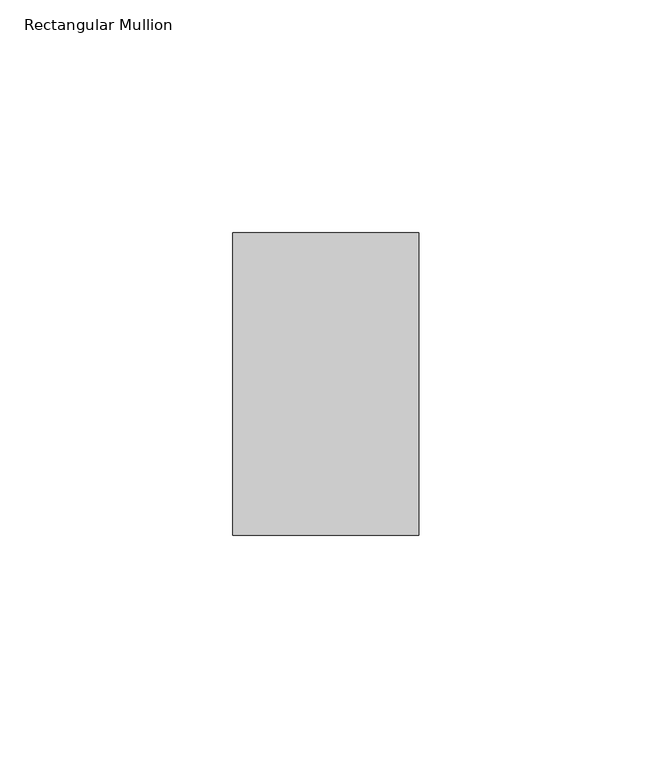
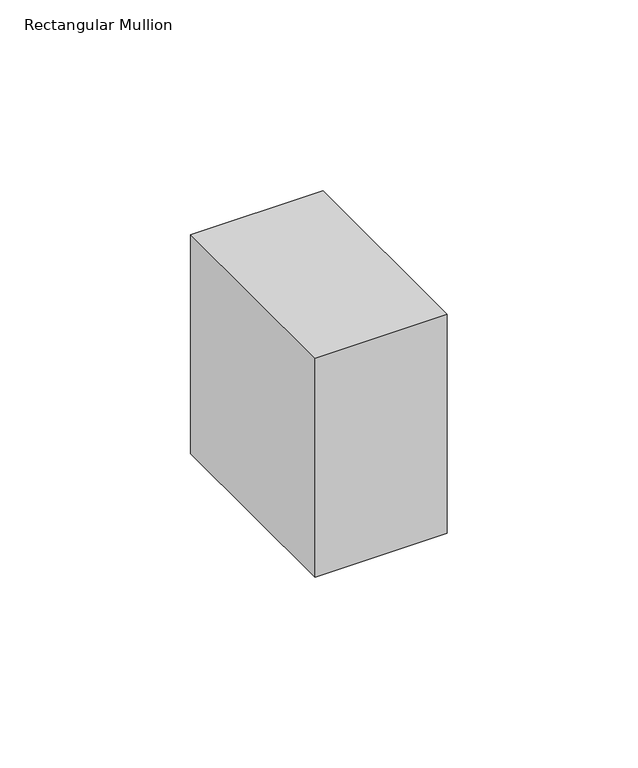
"""IFC4 building model written with IfcOpenShell, lengths in millimetres: member geometry, Rectangular Mullion : Batten_Timber_Modinex_Austratus_Grid_Fascia_40x65_Blackbutt."""

from ifc_helpers import new_model, si_unit, frame, origin, place, context, project, spatial, polyline, outline, extrude, source, transform, mapped, element, save


def rectangular_mullion_8d2c2460(model_context):
    return source(origin(), model_context, "Body", "SweptSolid", [
        extrude(outline(polyline([(-20.0, 65.0), (20.0, 65.0), (20.0, 0.0), (-20.0, 0.0), (-20.0, 65.0)])), frame((0.0, 0.0, -69.9999997), z_axis=(0.0, 0.0, 1.0), x_axis=(1.0, 0.0, 0.0)), (0.0, 0.0, 1.0), 69.9999997),
    ])


if __name__ == "__main__":
    model = new_model("IFC4")
    model_context = context("Model", 3, world=origin())
    ifc_project = project(units=[si_unit("LENGTHUNIT", "METRE", prefix="MILLI")], contexts=[model_context])
    site = spatial("IfcSite", under=ifc_project)
    building = spatial("IfcBuilding", under=site)
    placement = place(None, origin())
    rectangular_mullion_shape = rectangular_mullion_8d2c2460(model_context)
    element("IfcMember", 1, ObjectType="Rectangular Mullion : Batten_Timber_Modinex_Austratus_Grid_Fascia_40x65_Blackbutt", at=placement, inside=building, context=model_context, shape_type="MappedRepresentation", body=[
        mapped(rectangular_mullion_shape, transform((0.0, 0.0, 0.0), x_axis=(1.0, 0.0, 0.0), y_axis=(0.0, 1.0, 0.0), z_axis=(0.0, 0.0, 1.0))),
    ])
    save(model, "model.ifc")
